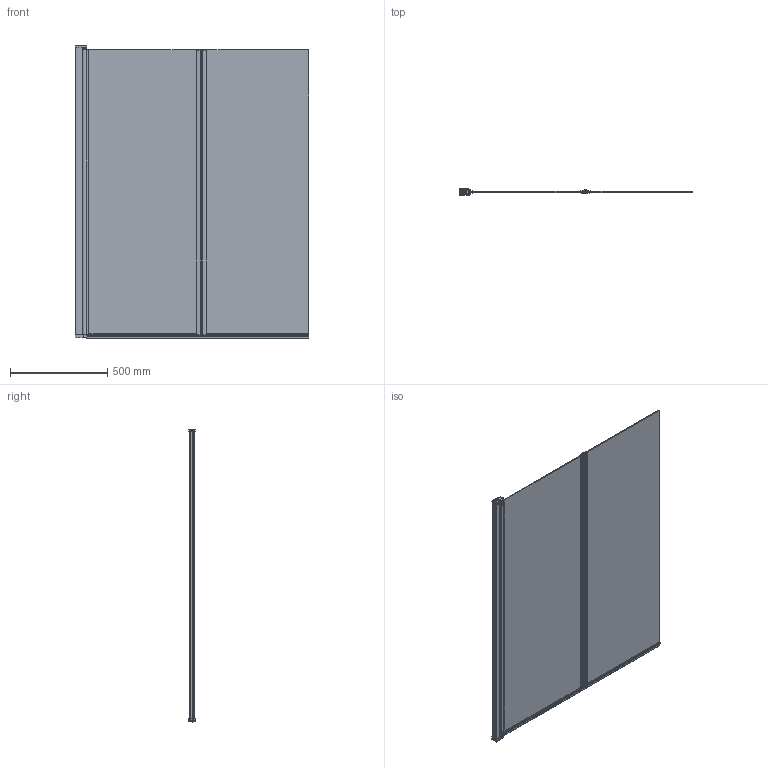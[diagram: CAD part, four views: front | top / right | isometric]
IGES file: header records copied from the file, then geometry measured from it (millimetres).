
Global section: file name: 0b173a5f-c66d-4115-9e29-85e119b23156; native system: unknown; preprocessor: unknown; author: unknown; organization: unknown; date: 20200709.065351; units: millimetre
Bounding box: 1200.8 x 33.3 x 1501.77 mm (x, y, z)
Volume: 9124229.6 mm3; surface area: 5003261 mm2
Topology: 36 solids, 36 shells, 2241 faces, 5969 edges, 3813 vertices
Faces by surface type: bspline 2241
